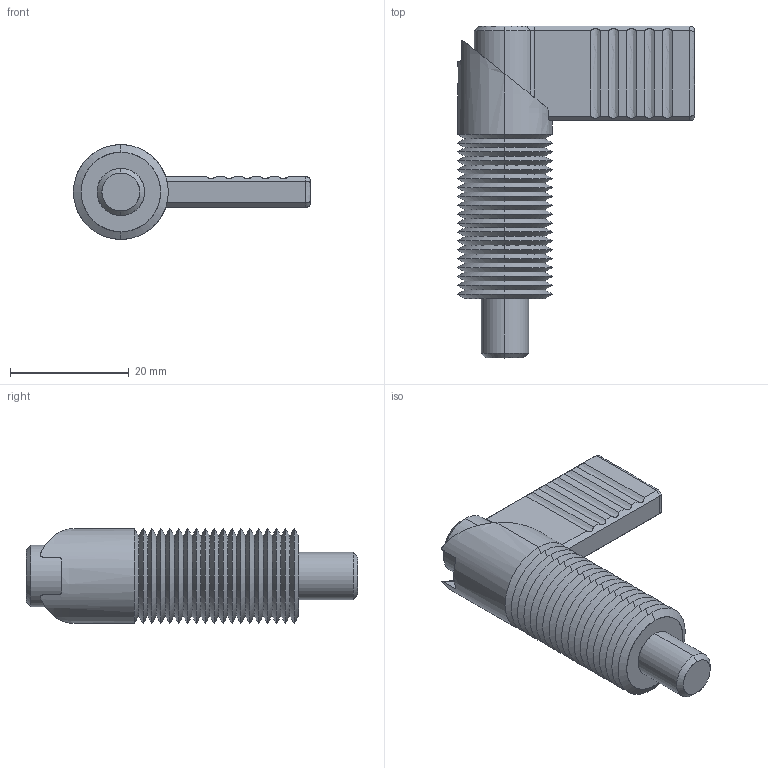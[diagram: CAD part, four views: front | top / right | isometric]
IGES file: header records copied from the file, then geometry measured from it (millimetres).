
Start section: SolidWorks IGES file using analytic representation for surfaces
Global section: file name: C:\Documents and Settings\IANO\My Documents\Wix and Auto CAD Work\CAD Models\Parametric Models\Wix Models\30000\32500_v2\32500_v2_20160309_IGES\32500.W0007.igs; native system: SolidWorks 2009; preprocessor: SolidWorks 2009; author: IANO; date: 160630.164251; units: millimetre
Bounding box: 40 x 56 x 16 mm (x, y, z)
Surface area: 7348.5 mm2 (no closed solid volume)
Topology: 0 solids, 0 shells, 155 faces, 1392 edges, 1392 vertices
Faces by surface type: revolution 129, bspline 26
